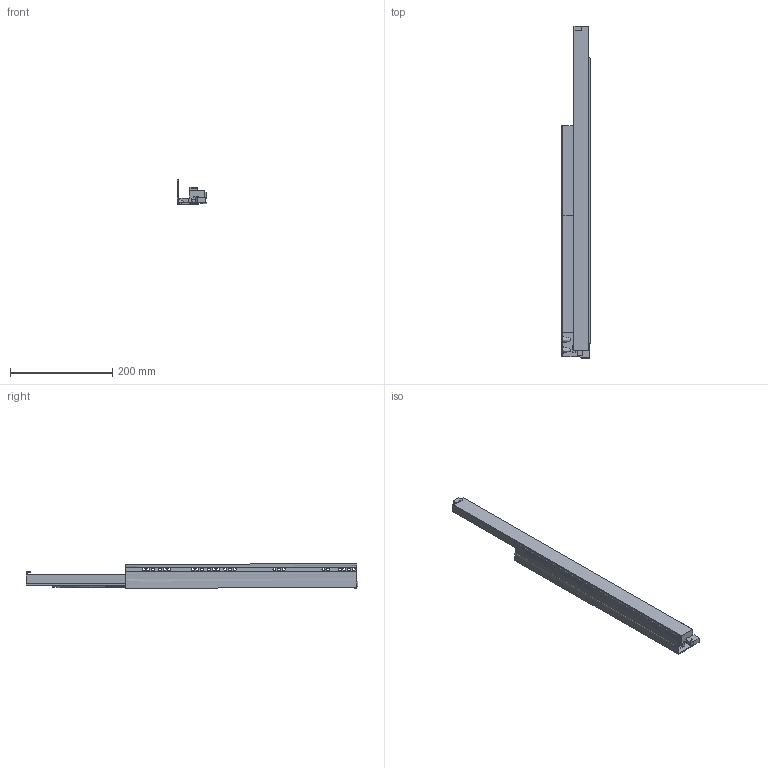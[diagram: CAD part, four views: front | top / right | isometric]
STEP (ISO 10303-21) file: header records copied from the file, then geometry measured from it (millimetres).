
FILE_DESCRIPTION (( 'STEP AP214' ), '1' );
FILE_NAME ('_IMOS_Dynapro_Softclose_D516_NL_650_LI.step', '2010-07-16T06:01:42', ( 'grass' ), ( '' ), 'SwSTEP 2.0', 'SolidWorks 2009', '' );
FILE_SCHEMA (( 'AUTOMOTIVE_DESIGN' ));
Length unit declared in the file: millimetre
Products named in the file (1): _IMOS_Dynapro_Softclose_D516_NL_650_LI
Bounding box: 57.08 x 650.07 x 47.86 mm (x, y, z)
Volume: 550636 mm3; surface area: 177408.6 mm2
Topology: 1 solids, 1 shells, 132 faces, 445 edges, 311 vertices
Faces by surface type: plane 77, cylinder 48, bspline 7
Entity records: 5713 total; most frequent: CARTESIAN_POINT 1603, ORIENTED_EDGE 882, DIRECTION 807, EDGE_CURVE 441, LINE 321, VECTOR 321, VERTEX_POINT 311, AXIS2_PLACEMENT_3D 243
